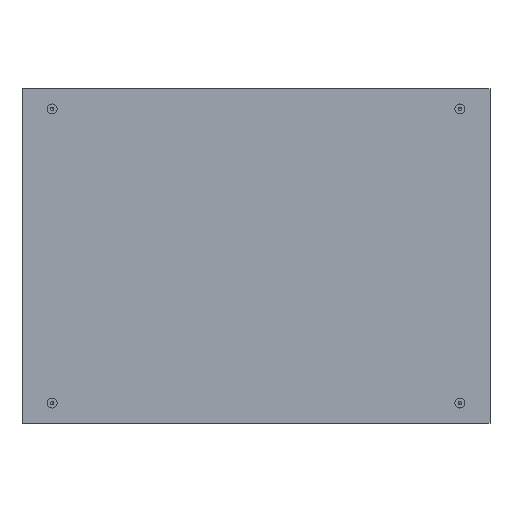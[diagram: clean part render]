
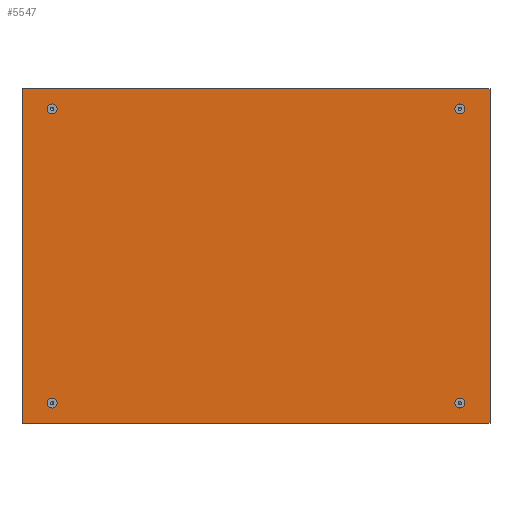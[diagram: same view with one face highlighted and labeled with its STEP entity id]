
A CAD part, left-side view. The second image highlights one B-rep face of the part: STEP entity #5547.
In plain terms, the highlighted planar face has unit normal (-1, 0, 0).
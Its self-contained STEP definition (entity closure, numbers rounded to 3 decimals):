
#333=CIRCLE('',#7287,5.125);
#334=CIRCLE('',#7288,5.125);
#335=CIRCLE('',#7289,5.125);
#336=CIRCLE('',#7290,5.125);
#639=ORIENTED_EDGE('',*,*,#2142,.T.);
#640=ORIENTED_EDGE('',*,*,#2143,.T.);
#641=ORIENTED_EDGE('',*,*,#2144,.T.);
#642=ORIENTED_EDGE('',*,*,#2145,.T.);
#643=ORIENTED_EDGE('',*,*,#2146,.F.);
#644=ORIENTED_EDGE('',*,*,#2147,.F.);
#645=ORIENTED_EDGE('',*,*,#2148,.F.);
#646=ORIENTED_EDGE('',*,*,#2149,.F.);
#2142=EDGE_CURVE('',#2889,#2890,#3440,.T.);
#2143=EDGE_CURVE('',#2890,#2891,#3441,.T.);
#2144=EDGE_CURVE('',#2891,#2892,#3442,.T.);
#2145=EDGE_CURVE('',#2892,#2889,#3443,.T.);
#2146=EDGE_CURVE('',#2893,#2893,#333,.T.);
#2147=EDGE_CURVE('',#2894,#2894,#334,.T.);
#2148=EDGE_CURVE('',#2895,#2895,#335,.T.);
#2149=EDGE_CURVE('',#2896,#2896,#336,.T.);
#2889=VERTEX_POINT('',#9691);
#2890=VERTEX_POINT('',#9692);
#2891=VERTEX_POINT('',#9694);
#2892=VERTEX_POINT('',#9696);
#2893=VERTEX_POINT('',#9699);
#2894=VERTEX_POINT('',#9701);
#2895=VERTEX_POINT('',#9703);
#2896=VERTEX_POINT('',#9705);
#3440=LINE('',#9690,#3992);
#3441=LINE('',#9693,#3993);
#3442=LINE('',#9695,#3994);
#3443=LINE('',#9697,#3995);
#3992=VECTOR('',#7973,1000.);
#3993=VECTOR('',#7974,1000.);
#3994=VECTOR('',#7975,1000.);
#3995=VECTOR('',#7976,1000.);
#4476=EDGE_LOOP('',(#639,#640,#641,#642));
#4477=EDGE_LOOP('',(#643));
#4478=EDGE_LOOP('',(#644));
#4479=EDGE_LOOP('',(#645));
#4480=EDGE_LOOP('',(#646));
#4898=FACE_BOUND('',#4476,.T.);
#4899=FACE_BOUND('',#4477,.T.);
#4900=FACE_BOUND('',#4478,.T.);
#4901=FACE_BOUND('',#4479,.T.);
#4902=FACE_BOUND('',#4480,.T.);
#5320=PLANE('',#7286);
#5547=ADVANCED_FACE('',(#4898,#4899,#4900,#4901,#4902),#5320,.T.);
#7286=AXIS2_PLACEMENT_3D('',#9689,#7971,#7972);
#7287=AXIS2_PLACEMENT_3D('',#9698,#7977,#7978);
#7288=AXIS2_PLACEMENT_3D('',#9700,#7979,#7980);
#7289=AXIS2_PLACEMENT_3D('',#9702,#7981,#7982);
#7290=AXIS2_PLACEMENT_3D('',#9704,#7983,#7984);
#7971=DIRECTION('',(-1.,0.,0.));
#7972=DIRECTION('',(0.,-1.,0.));
#7973=DIRECTION('',(0.,1.,0.));
#7974=DIRECTION('',(0.,0.,-1.));
#7975=DIRECTION('',(0.,-1.,0.));
#7976=DIRECTION('',(0.,0.,1.));
#7977=DIRECTION('',(-1.,0.,0.));
#7978=DIRECTION('',(0.,-1.,0.));
#7979=DIRECTION('',(-1.,0.,0.));
#7980=DIRECTION('',(0.,-1.,0.));
#7981=DIRECTION('',(-1.,0.,0.));
#7982=DIRECTION('',(0.,-1.,0.));
#7983=DIRECTION('',(-1.,0.,0.));
#7984=DIRECTION('',(0.,-1.,0.));
#9689=CARTESIAN_POINT('',(-1.2,0.,0.));
#9690=CARTESIAN_POINT('',(-1.2,0.,250.));
#9691=CARTESIAN_POINT('',(-1.2,-350.,250.));
#9692=CARTESIAN_POINT('',(-1.2,350.,250.));
#9693=CARTESIAN_POINT('',(-1.2,350.,0.));
#9694=CARTESIAN_POINT('',(-1.2,350.,-250.));
#9695=CARTESIAN_POINT('',(-1.2,0.,-250.));
#9696=CARTESIAN_POINT('',(-1.2,-350.,-250.));
#9697=CARTESIAN_POINT('',(-1.2,-350.,0.));
#9698=CARTESIAN_POINT('',(-1.2,-305.,-220.));
#9699=CARTESIAN_POINT('',(-1.2,-310.125,-220.));
#9700=CARTESIAN_POINT('',(-1.2,305.,-220.));
#9701=CARTESIAN_POINT('',(-1.2,299.875,-220.));
#9702=CARTESIAN_POINT('',(-1.2,305.,220.));
#9703=CARTESIAN_POINT('',(-1.2,299.875,220.));
#9704=CARTESIAN_POINT('',(-1.2,-305.,220.));
#9705=CARTESIAN_POINT('',(-1.2,-310.125,220.));
